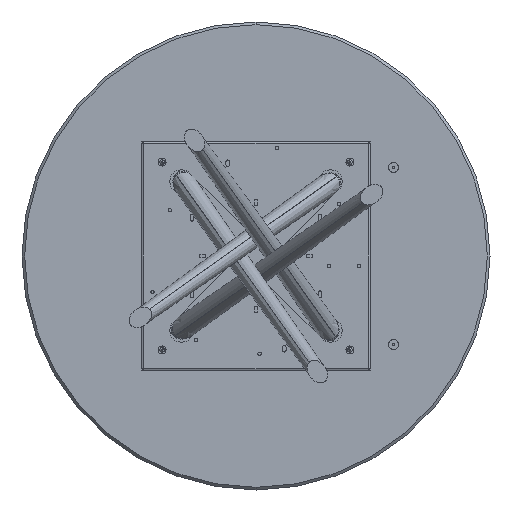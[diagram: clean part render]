
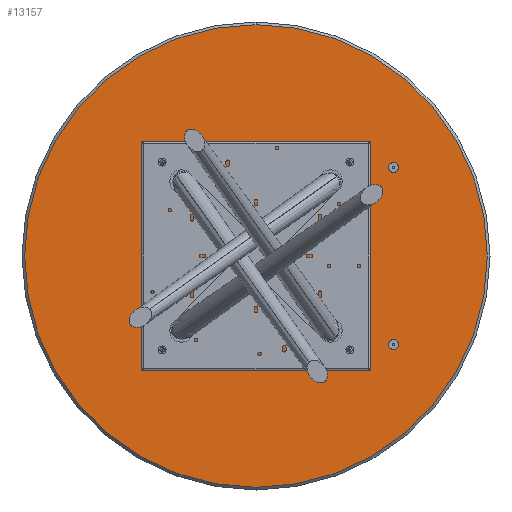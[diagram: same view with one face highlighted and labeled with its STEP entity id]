
A CAD part, front view. The second image highlights one B-rep face of the part: STEP entity #13157.
In plain terms, the highlighted planar face has unit normal (0, -1, 0).
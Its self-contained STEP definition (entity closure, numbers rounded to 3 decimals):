
#1263 = CARTESIAN_POINT ( 'NONE',  ( 0., 0., 692. ) ) ;
#2212 = ORIENTED_EDGE ( 'NONE', *, *, #5277, .T. ) ;
#3682 = DIRECTION ( 'NONE',  ( 0., 0., -1. ) ) ;
#3875 = CARTESIAN_POINT ( 'NONE',  ( 0., 0., 0. ) ) ;
#4360 = AXIS2_PLACEMENT_3D ( 'NONE', #13162, #11712, #6072 ) ;
#5277 = EDGE_CURVE ( 'NONE', #10757, #11570, #15430, .T. ) ;
#5508 = AXIS2_PLACEMENT_3D ( 'NONE', #3875, #9892, #3682 ) ;
#6072 = DIRECTION ( 'NONE',  ( 0., 0., -1. ) ) ;
#6907 = EDGE_LOOP ( 'NONE', ( #2212, #18593 ) ) ;
#8324 = CARTESIAN_POINT ( 'NONE',  ( 0., 0., 0. ) ) ;
#8512 = DIRECTION ( 'NONE',  ( 0., -1., 0. ) ) ;
#9892 = DIRECTION ( 'NONE',  ( 0., -1., 0. ) ) ;
#10229 = AXIS2_PLACEMENT_3D ( 'NONE', #8324, #8512, #11466 ) ;
#10757 = VERTEX_POINT ( 'NONE', #1263 ) ;
#11466 = DIRECTION ( 'NONE',  ( 0., 0., -1. ) ) ;
#11570 = VERTEX_POINT ( 'NONE', #18240 ) ;
#11712 = DIRECTION ( 'NONE',  ( 0., -1., 0. ) ) ;
#13157 = ADVANCED_FACE ( 'NONE', ( #18231 ), #15550, .T. ) ;
#13162 = CARTESIAN_POINT ( 'NONE',  ( 0., 0., 0. ) ) ;
#15430 = CIRCLE ( 'NONE', #10229, 692. ) ;
#15550 = PLANE ( 'NONE',  #5508 ) ;
#15852 = EDGE_CURVE ( 'NONE', #11570, #10757, #16909, .T. ) ;
#16909 = CIRCLE ( 'NONE', #4360, 692. ) ;
#18231 = FACE_OUTER_BOUND ( 'NONE', #6907, .T. ) ;
#18240 = CARTESIAN_POINT ( 'NONE',  ( 0., 0., -692. ) ) ;
#18593 = ORIENTED_EDGE ( 'NONE', *, *, #15852, .T. ) ;
